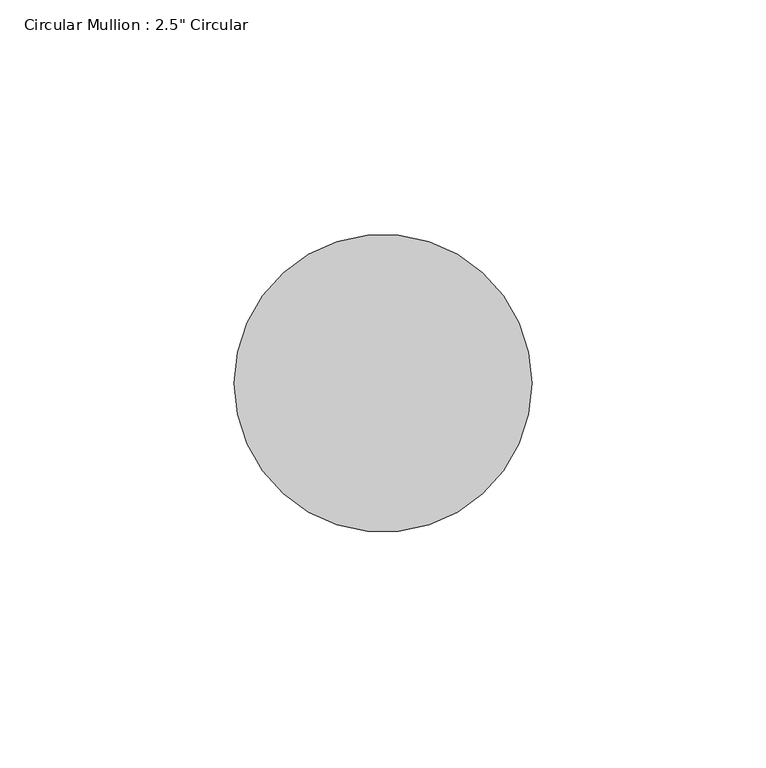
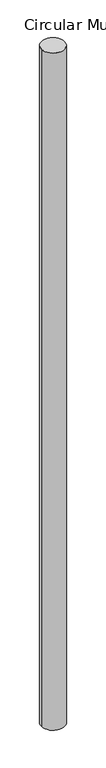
"""IFC4 building model written with IfcOpenShell, lengths in millimetres: member geometry."""

from ifc_helpers import new_model, si_unit, point, frame, frame_2d, origin, place, context, project, spatial, circle_curve, trimmed, segment, composite_curve, outline, extrude, source, transform, mapped, element, save


def member_85cf29cd(model_context):
    return source(origin(), model_context, "Body", "SweptSolid", [
        extrude(outline(composite_curve([segment(trimmed(circle_curve(frame_2d((-31.75, 0.0)), 31.75), [point((0.0, 0.0))], [point((-63.5, 0.0))], False, "CARTESIAN"), True, "CONTINUOUS"), segment(trimmed(circle_curve(frame_2d((-31.75, 0.0)), 31.75), [point((-63.5, 0.0))], [point((0.0, 0.0))], False, "CARTESIAN"), True, "CONTINUOUS")], self_intersect=False)), frame((0.0, 0.0, -1958.2395197), z_axis=(0.0, 0.0, 1.0), x_axis=(1.0, 0.0, 0.0)), (0.0, 0.0, 1.0), 1958.2395197),
    ])


if __name__ == "__main__":
    model = new_model("IFC4")
    model_context = context("Model", 3, world=origin())
    ifc_project = project(units=[si_unit("LENGTHUNIT", "METRE", prefix="MILLI")], contexts=[model_context])
    site = spatial("IfcSite", under=ifc_project)
    building = spatial("IfcBuilding", under=site)
    placement = place(None, origin())
    member_shape = member_85cf29cd(model_context)
    element("IfcMember", 1, ObjectType="Circular Mullion : 2.5\" Circular", at=placement, inside=building, context=model_context, shape_type="MappedRepresentation", body=[
        mapped(member_shape, transform((0.0, 0.0, 0.0), x_axis=(1.0, 0.0, 0.0), y_axis=(0.0, 1.0, 0.0), z_axis=(0.0, 0.0, 1.0))),
    ])
    save(model, "model.ifc")
